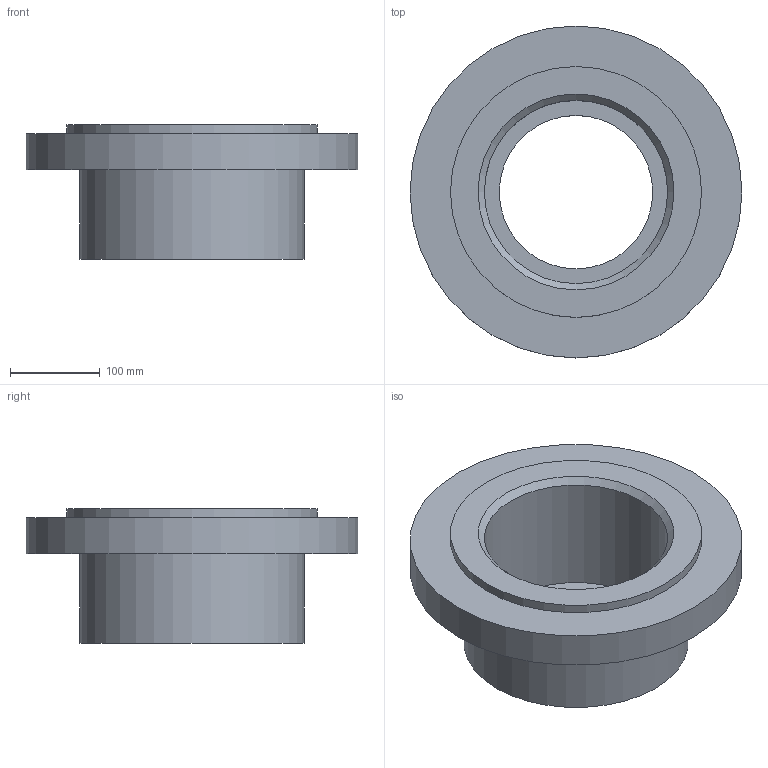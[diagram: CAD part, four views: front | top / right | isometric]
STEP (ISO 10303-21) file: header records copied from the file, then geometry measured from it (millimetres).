
FILE_DESCRIPTION(/* description */ ('Alibre Inc.'),/* implementation_level */ '2;1');
FILE_NAME(/* name */ 'export-ADCCF0A7-43F8-4BEB-A4D7-44D9E4D12EB0',/* time_stamp */ '2025-03-28T10:16:53+08:00',/* author */ (''),/* organization */ (''),/* preprocessor_version */ 'ST-DEVELOPER v17',/* originating_system */ 'Alibre',/* authorisation */ '');
FILE_SCHEMA (('CONFIG_CONTROL_DESIGN'));
Length unit declared in the file: centimetre
Bounding box: 370 x 370 x 150 mm (x, y, z)
Volume: 4989022.5 mm3; surface area: 395579.1 mm2
Topology: 1 solids, 1 shells, 11 faces, 18 edges, 12 vertices
Faces by surface type: cylinder 5, plane 5, cone 1
Full cylindrical faces by diameter (mm): 171.03 x1, 204.3 x1, 250 x1, 279.75 x1, 370 x1
Entity records: 308 total; most frequent: DIRECTION 39, CARTESIAN_POINT 33, ORIENTED_EDGE 22, EDGE_LOOP 22, FACE_BOUND 22, AXIS2_PLACEMENT_3D 22, VERTEX_POINT 11, CIRCLE 11
